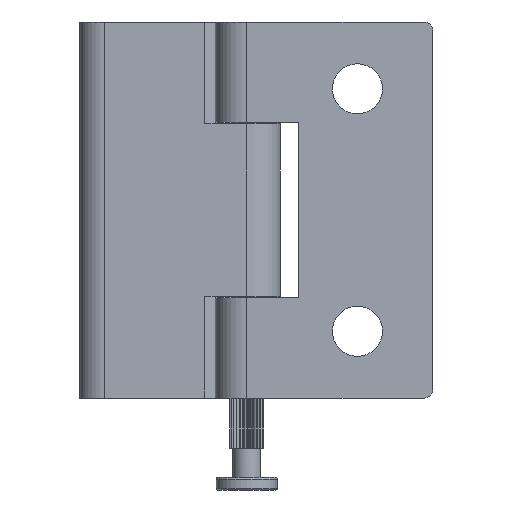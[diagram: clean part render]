
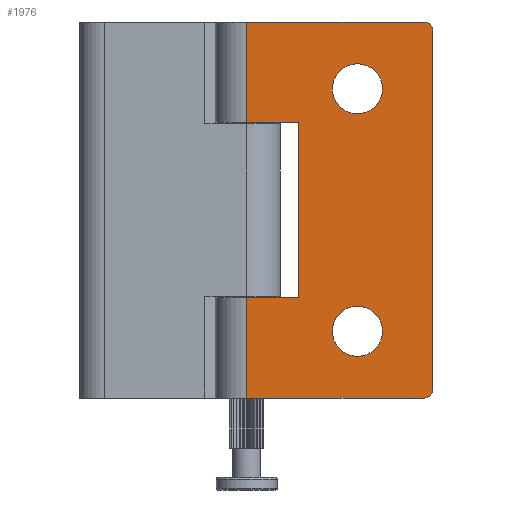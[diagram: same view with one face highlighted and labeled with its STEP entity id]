
A CAD part, front view. The second image highlights one B-rep face of the part: STEP entity #1976.
In plain terms, the highlighted planar face has unit normal (0, -1, 0).
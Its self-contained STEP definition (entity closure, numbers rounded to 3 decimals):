
#59 = LINE ( 'NONE', #3579, #5572 ) ;
#72 = DIRECTION ( 'NONE',  ( 0., -1., 0. ) ) ;
#107 = CARTESIAN_POINT ( 'NONE',  ( -13.671, 1.605, 14.5 ) ) ;
#131 = VERTEX_POINT ( 'NONE', #2872 ) ;
#188 = CIRCLE ( 'NONE', #3405, 1. ) ;
#233 = VECTOR ( 'NONE', #2134, 1000. ) ;
#264 = DIRECTION ( 'NONE',  ( 1., 0., 0. ) ) ;
#313 = CIRCLE ( 'NONE', #3896, 3. ) ;
#421 = VERTEX_POINT ( 'NONE', #2833 ) ;
#470 = VERTEX_POINT ( 'NONE', #669 ) ;
#496 = CIRCLE ( 'NONE', #4192, 3. ) ;
#533 = CARTESIAN_POINT ( 'NONE',  ( -6.671, 1.605, -10.5 ) ) ;
#572 = EDGE_CURVE ( 'NONE', #1152, #5466, #2565, .T. ) ;
#629 = CARTESIAN_POINT ( 'NONE',  ( -13.671, 1.605, -17.5 ) ) ;
#669 = CARTESIAN_POINT ( 'NONE',  ( -22.671, 1.605, -21.5 ) ) ;
#791 = VERTEX_POINT ( 'NONE', #1034 ) ;
#839 = LINE ( 'NONE', #3902, #2617 ) ;
#874 = VERTEX_POINT ( 'NONE', #5187 ) ;
#882 = CARTESIAN_POINT ( 'NONE',  ( -6.671, 1.605, -10.5 ) ) ;
#926 = ORIENTED_EDGE ( 'NONE', *, *, #2069, .F. ) ;
#1034 = CARTESIAN_POINT ( 'NONE',  ( -21.671, 1.605, 22.5 ) ) ;
#1067 = VECTOR ( 'NONE', #3831, 1000. ) ;
#1075 = DIRECTION ( 'NONE',  ( 0., 0., -1. ) ) ;
#1101 = DIRECTION ( 'NONE',  ( 0., -1., 0. ) ) ;
#1134 = CARTESIAN_POINT ( 'NONE',  ( -13.671, 1.605, -14.5 ) ) ;
#1147 = VERTEX_POINT ( 'NONE', #629 ) ;
#1151 = CARTESIAN_POINT ( 'NONE',  ( -22.671, 1.605, -22.5 ) ) ;
#1152 = VERTEX_POINT ( 'NONE', #5497 ) ;
#1218 = LINE ( 'NONE', #4268, #3734 ) ;
#1222 = EDGE_CURVE ( 'NONE', #791, #421, #1218, .T. ) ;
#1279 = DIRECTION ( 'NONE',  ( 0., 0., -1. ) ) ;
#1298 = EDGE_CURVE ( 'NONE', #470, #131, #1797, .T. ) ;
#1367 = EDGE_CURVE ( 'NONE', #3115, #3479, #839, .T. ) ;
#1427 = CARTESIAN_POINT ( 'NONE',  ( -21.671, 1.605, 21.5 ) ) ;
#1539 = AXIS2_PLACEMENT_3D ( 'NONE', #1134, #4663, #5540 ) ;
#1585 = DIRECTION ( 'NONE',  ( 0., 0., 1. ) ) ;
#1631 = EDGE_CURVE ( 'NONE', #2148, #470, #5126, .T. ) ;
#1761 = FACE_BOUND ( 'NONE', #4890, .T. ) ;
#1797 = CIRCLE ( 'NONE', #4666, 1. ) ;
#1803 = ORIENTED_EDGE ( 'NONE', *, *, #4527, .T. ) ;
#1910 = CIRCLE ( 'NONE', #1539, 3. ) ;
#1976 = ADVANCED_FACE ( 'NONE', ( #1761, #3888, #2593 ), #5613, .F. ) ;
#1977 = DIRECTION ( 'NONE',  ( 0., 0., -1. ) ) ;
#1982 = EDGE_LOOP ( 'NONE', ( #5547, #2734, #3218, #4530, #926, #4501, #1803, #4684, #5429, #4056 ) ) ;
#2000 = CARTESIAN_POINT ( 'NONE',  ( -13.671, 1.605, -14.5 ) ) ;
#2060 = CARTESIAN_POINT ( 'NONE',  ( -22.671, 1.605, 22.5 ) ) ;
#2069 = EDGE_CURVE ( 'NONE', #5466, #3115, #3079, .T. ) ;
#2079 = CARTESIAN_POINT ( 'NONE',  ( -6.671, 1.605, 10.5 ) ) ;
#2111 = CARTESIAN_POINT ( 'NONE',  ( -6.671, 1.605, 10.5 ) ) ;
#2134 = DIRECTION ( 'NONE',  ( 1., 0., 0. ) ) ;
#2148 = VERTEX_POINT ( 'NONE', #4040 ) ;
#2166 = AXIS2_PLACEMENT_3D ( 'NONE', #2000, #1101, #3402 ) ;
#2167 = AXIS2_PLACEMENT_3D ( 'NONE', #4311, #5642, #3025 ) ;
#2258 = ORIENTED_EDGE ( 'NONE', *, *, #2569, .F. ) ;
#2394 = LINE ( 'NONE', #1151, #1067 ) ;
#2416 = CARTESIAN_POINT ( 'NONE',  ( -13.671, 1.605, -11.5 ) ) ;
#2441 = CARTESIAN_POINT ( 'NONE',  ( -21.671, 1.605, -21.5 ) ) ;
#2469 = DIRECTION ( 'NONE',  ( 1., 0., 0. ) ) ;
#2565 = LINE ( 'NONE', #2079, #4051 ) ;
#2569 = EDGE_CURVE ( 'NONE', #4493, #4833, #496, .T. ) ;
#2593 = FACE_OUTER_BOUND ( 'NONE', #1982, .T. ) ;
#2617 = VECTOR ( 'NONE', #1279, 1000. ) ;
#2667 = CARTESIAN_POINT ( 'NONE',  ( -13.671, 1.605, 11.5 ) ) ;
#2692 = ORIENTED_EDGE ( 'NONE', *, *, #3624, .F. ) ;
#2734 = ORIENTED_EDGE ( 'NONE', *, *, #1298, .T. ) ;
#2833 = CARTESIAN_POINT ( 'NONE',  ( -0.421, 1.605, 22.5 ) ) ;
#2872 = CARTESIAN_POINT ( 'NONE',  ( -21.671, 1.605, -22.5 ) ) ;
#2910 = ORIENTED_EDGE ( 'NONE', *, *, #3165, .F. ) ;
#2916 = VECTOR ( 'NONE', #264, 1000. ) ;
#2962 = DIRECTION ( 'NONE',  ( 0., -1., 0. ) ) ;
#2966 = EDGE_LOOP ( 'NONE', ( #2692, #5141 ) ) ;
#3025 = DIRECTION ( 'NONE',  ( 0., 0., 1. ) ) ;
#3079 = LINE ( 'NONE', #882, #233 ) ;
#3107 = DIRECTION ( 'NONE',  ( 0., 0., -1. ) ) ;
#3115 = VERTEX_POINT ( 'NONE', #3889 ) ;
#3165 = EDGE_CURVE ( 'NONE', #4833, #4493, #313, .T. ) ;
#3184 = DIRECTION ( 'NONE',  ( 0., -1., 0. ) ) ;
#3213 = CARTESIAN_POINT ( 'NONE',  ( -0.421, 1.605, -22.5 ) ) ;
#3218 = ORIENTED_EDGE ( 'NONE', *, *, #3869, .T. ) ;
#3275 = DIRECTION ( 'NONE',  ( 0., -1., 0. ) ) ;
#3402 = DIRECTION ( 'NONE',  ( 0., 0., -1. ) ) ;
#3405 = AXIS2_PLACEMENT_3D ( 'NONE', #1427, #3184, #4950 ) ;
#3479 = VERTEX_POINT ( 'NONE', #3213 ) ;
#3507 = EDGE_CURVE ( 'NONE', #421, #874, #59, .T. ) ;
#3579 = CARTESIAN_POINT ( 'NONE',  ( -0.421, 1.605, 22.5 ) ) ;
#3624 = EDGE_CURVE ( 'NONE', #1147, #4225, #4006, .T. ) ;
#3734 = VECTOR ( 'NONE', #2469, 1000. ) ;
#3831 = DIRECTION ( 'NONE',  ( 1., 0., 0. ) ) ;
#3837 = DIRECTION ( 'NONE',  ( 0., 0., -1. ) ) ;
#3869 = EDGE_CURVE ( 'NONE', #131, #3479, #2394, .T. ) ;
#3888 = FACE_BOUND ( 'NONE', #2966, .T. ) ;
#3889 = CARTESIAN_POINT ( 'NONE',  ( -0.421, 1.605, -10.5 ) ) ;
#3896 = AXIS2_PLACEMENT_3D ( 'NONE', #4615, #3275, #1977 ) ;
#3902 = CARTESIAN_POINT ( 'NONE',  ( -0.421, 1.605, 22.5 ) ) ;
#4006 = CIRCLE ( 'NONE', #2166, 3. ) ;
#4040 = CARTESIAN_POINT ( 'NONE',  ( -22.671, 1.605, 21.5 ) ) ;
#4051 = VECTOR ( 'NONE', #3837, 1000. ) ;
#4056 = ORIENTED_EDGE ( 'NONE', *, *, #5495, .T. ) ;
#4192 = AXIS2_PLACEMENT_3D ( 'NONE', #107, #72, #3107 ) ;
#4225 = VERTEX_POINT ( 'NONE', #2416 ) ;
#4268 = CARTESIAN_POINT ( 'NONE',  ( -22.671, 1.605, 22.5 ) ) ;
#4311 = CARTESIAN_POINT ( 'NONE',  ( -22.671, 1.605, 22.5 ) ) ;
#4493 = VERTEX_POINT ( 'NONE', #2667 ) ;
#4501 = ORIENTED_EDGE ( 'NONE', *, *, #572, .F. ) ;
#4527 = EDGE_CURVE ( 'NONE', #1152, #874, #4721, .T. ) ;
#4530 = ORIENTED_EDGE ( 'NONE', *, *, #1367, .F. ) ;
#4544 = CARTESIAN_POINT ( 'NONE',  ( -13.671, 1.605, 17.5 ) ) ;
#4615 = CARTESIAN_POINT ( 'NONE',  ( -13.671, 1.605, 14.5 ) ) ;
#4622 = EDGE_CURVE ( 'NONE', #4225, #1147, #1910, .T. ) ;
#4663 = DIRECTION ( 'NONE',  ( 0., -1., 0. ) ) ;
#4666 = AXIS2_PLACEMENT_3D ( 'NONE', #2441, #2962, #1585 ) ;
#4684 = ORIENTED_EDGE ( 'NONE', *, *, #3507, .F. ) ;
#4721 = LINE ( 'NONE', #2111, #2916 ) ;
#4833 = VERTEX_POINT ( 'NONE', #4544 ) ;
#4844 = VECTOR ( 'NONE', #5570, 1000. ) ;
#4890 = EDGE_LOOP ( 'NONE', ( #2258, #2910 ) ) ;
#4950 = DIRECTION ( 'NONE',  ( 0., 0., 1. ) ) ;
#5126 = LINE ( 'NONE', #2060, #4844 ) ;
#5141 = ORIENTED_EDGE ( 'NONE', *, *, #4622, .F. ) ;
#5187 = CARTESIAN_POINT ( 'NONE',  ( -0.421, 1.605, 10.5 ) ) ;
#5429 = ORIENTED_EDGE ( 'NONE', *, *, #1222, .F. ) ;
#5466 = VERTEX_POINT ( 'NONE', #533 ) ;
#5495 = EDGE_CURVE ( 'NONE', #791, #2148, #188, .T. ) ;
#5497 = CARTESIAN_POINT ( 'NONE',  ( -6.671, 1.605, 10.5 ) ) ;
#5540 = DIRECTION ( 'NONE',  ( 0., 0., -1. ) ) ;
#5547 = ORIENTED_EDGE ( 'NONE', *, *, #1631, .T. ) ;
#5570 = DIRECTION ( 'NONE',  ( 0., 0., -1. ) ) ;
#5572 = VECTOR ( 'NONE', #1075, 1000. ) ;
#5613 = PLANE ( 'NONE',  #2167 ) ;
#5642 = DIRECTION ( 'NONE',  ( 0., 1., 0. ) ) ;
